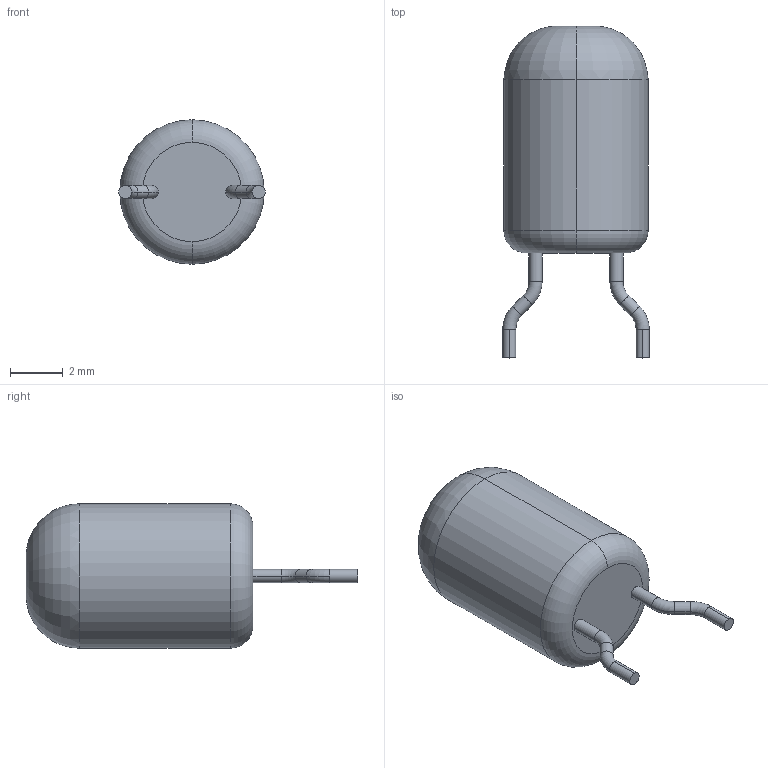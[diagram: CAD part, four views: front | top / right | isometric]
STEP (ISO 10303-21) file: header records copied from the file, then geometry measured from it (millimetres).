
FILE_DESCRIPTION (( 'STEP AP214' ), '1' );
FILE_NAME ( 'CAPPRD508W50D550H1164P.STEP', '2014-04-11T12:31:22', ( '' ), ( '' ), 'FPX Expert 2013', 'PCB Libraries', '' );
FILE_SCHEMA (( 'AUTOMOTIVE_DESIGN' ));
Length unit declared in the file: millimetre
Products named in the file (1): CAPPRD508W50D550H1164P
Bounding box: 5.58 x 12.64 x 5.5 mm (x, y, z)
Volume: 191.6 mm3; surface area: 187.5 mm2
Topology: 3 solids, 3 shells, 32 faces, 62 edges, 36 vertices
Faces by surface type: cylinder 14, torus 12, plane 6
Entity records: 970 total; most frequent: DIRECTION 176, CARTESIAN_POINT 131, ORIENTED_EDGE 124, AXIS2_PLACEMENT_3D 81, EDGE_CURVE 62, CIRCLE 48, VERTEX_POINT 36, STYLED_ITEM 36
